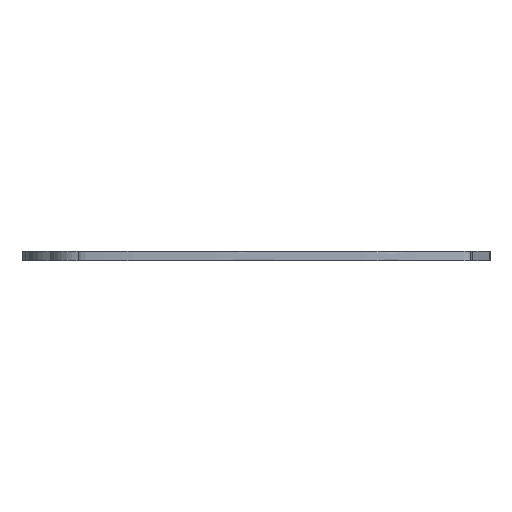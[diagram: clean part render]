
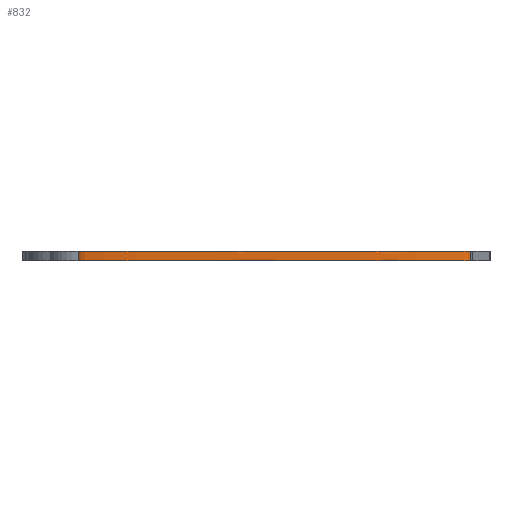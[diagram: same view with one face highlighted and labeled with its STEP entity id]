
A CAD part, front view. The second image highlights one B-rep face of the part: STEP entity #832.
In plain terms, the highlighted face is a extrusion surface.
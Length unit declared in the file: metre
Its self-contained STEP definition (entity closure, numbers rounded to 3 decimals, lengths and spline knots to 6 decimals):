
#832=ADVANCED_FACE('',(#2020),#2021,.T.);
#2020=FACE_OUTER_BOUND('',#4005,.T.);
#2021=SURFACE_OF_LINEAR_EXTRUSION('',#4006,#4007);
#4005=EDGE_LOOP('',(#7692,#7693,#7694,#7695));
#4006=B_SPLINE_CURVE_WITH_KNOTS('',3,(#7696,#7697,#7698,#7699,#7700,#7701,#7702,#7703,#7704,#7705,#7706,#7707,#7708,#7709,#7710,#7711,#7712,#7713,#7714,#7715,#7716,#7717,#7718,#7719,#7720,#7721,#7722,#7723),.UNSPECIFIED.,.F.,.F.,(4,1,1,1,1,1,1,1,1,1,1,1,1,1,1,1,1,1,1,1,1,1,1,1,1,4),(0.437383,0.441884,0.449247,0.455413,0.458303,0.459639,0.460261,0.461224,0.463433,0.470431,0.483846,0.51818,0.535807,0.567667,0.579588,0.584209,0.586571,0.587561,0.588231,0.589484,0.59112,0.595098,0.599826,0.604742,0.608726,0.610942),.UNSPECIFIED.);
#4007=VECTOR('',#7724,1.0);
#7692=ORIENTED_EDGE('',*,*,#13254,.F.);
#7693=ORIENTED_EDGE('',*,*,#13252,.F.);
#7694=ORIENTED_EDGE('',*,*,#13255,.T.);
#7695=ORIENTED_EDGE('',*,*,#13256,.T.);
#7696=CARTESIAN_POINT('',(0.376262,0.066229,0.0));
#7697=CARTESIAN_POINT('',(0.377786,0.066142,0.0));
#7698=CARTESIAN_POINT('',(0.381803,0.065912,0.0));
#7699=CARTESIAN_POINT('',(0.387901,0.065407,0.0));
#7700=CARTESIAN_POINT('',(0.393428,0.06484,0.0));
#7701=CARTESIAN_POINT('',(0.396906,0.06407,0.0));
#7702=CARTESIAN_POINT('',(0.398463,0.063709,0.0));
#7703=CARTESIAN_POINT('',(0.399324,0.062887,0.0));
#7704=CARTESIAN_POINT('',(0.398069,0.061755,0.0));
#7705=CARTESIAN_POINT('',(0.39497,0.060942,0.0));
#7706=CARTESIAN_POINT('',(0.387099,0.060009,0.0));
#7707=CARTESIAN_POINT('',(0.368843,0.058039,0.0));
#7708=CARTESIAN_POINT('',(0.346517,0.057745,0.0));
#7709=CARTESIAN_POINT('',(0.318128,0.05801,0.0));
#7710=CARTESIAN_POINT('',(0.297276,0.058265,0.0));
#7711=CARTESIAN_POINT('',(0.280944,0.060299,0.0));
#7712=CARTESIAN_POINT('',(0.274605,0.060955,0.0));
#7713=CARTESIAN_POINT('',(0.271917,0.061633,0.0));
#7714=CARTESIAN_POINT('',(0.270714,0.062088,0.0));
#7715=CARTESIAN_POINT('',(0.269753,0.062847,0.0));
#7716=CARTESIAN_POINT('',(0.271266,0.063805,0.0));
#7717=CARTESIAN_POINT('',(0.273277,0.064241,0.0));
#7718=CARTESIAN_POINT('',(0.276896,0.064897,0.0));
#7719=CARTESIAN_POINT('',(0.281409,0.065523,0.0));
#7720=CARTESIAN_POINT('',(0.28604,0.065828,0.0));
#7721=CARTESIAN_POINT('',(0.289776,0.066369,0.0));
#7722=CARTESIAN_POINT('',(0.291881,0.06637,0.0));
#7723=CARTESIAN_POINT('',(0.292633,0.06637,0.0));
#7724=DIRECTION('',(-0.0,-0.0,-1.0));
#13252=EDGE_CURVE('',#17393,#17391,#17395,.T.);
#13254=EDGE_CURVE('',#17391,#17397,#17398,.T.);
#13255=EDGE_CURVE('',#17393,#17399,#17400,.T.);
#13256=EDGE_CURVE('',#17399,#17397,#17401,.T.);
#17391=VERTEX_POINT('',#20854);
#17393=VERTEX_POINT('',#20867);
#17395=LINE('',#20880,#20881);
#17397=VERTEX_POINT('',#20883);
#17398=B_SPLINE_CURVE_WITH_KNOTS('',3,(#20884,#20885,#20886,#20887,#20888,#20889,#20890,#20891,#20892,#20893,#20894,#20895,#20896,#20897,#20898,#20899,#20900,#20901,#20902,#20903,#20904,#20905,#20906,#20907,#20908,#20909,#20910,#20911),.UNSPECIFIED.,.F.,.F.,(4,1,1,1,1,1,1,1,1,1,1,1,1,1,1,1,1,1,1,1,1,1,1,1,1,4),(0.437383,0.441884,0.449247,0.455413,0.458303,0.459639,0.460261,0.461224,0.463433,0.470431,0.483846,0.51818,0.535807,0.567667,0.579588,0.584209,0.586571,0.587561,0.588231,0.589484,0.59112,0.595098,0.599826,0.604742,0.608726,0.610942),.UNSPECIFIED.);
#17399=VERTEX_POINT('',#20912);
#17400=B_SPLINE_CURVE_WITH_KNOTS('',3,(#20913,#20914,#20915,#20916,#20917,#20918,#20919,#20920,#20921,#20922,#20923,#20924,#20925,#20926,#20927,#20928,#20929,#20930,#20931,#20932,#20933,#20934,#20935,#20936,#20937,#20938,#20939,#20940),.UNSPECIFIED.,.F.,.F.,(4,1,1,1,1,1,1,1,1,1,1,1,1,1,1,1,1,1,1,1,1,1,1,1,1,4),(0.437383,0.441884,0.449247,0.455413,0.458303,0.459639,0.460261,0.461224,0.463433,0.470431,0.483846,0.51818,0.535807,0.567667,0.579588,0.584209,0.586571,0.587561,0.588231,0.589484,0.59112,0.595098,0.599826,0.604742,0.608726,0.610942),.UNSPECIFIED.);
#17401=LINE('',#20941,#20942);
#20854=CARTESIAN_POINT('',(0.376262,0.066229,-0.003));
#20867=CARTESIAN_POINT('',(0.376262,0.066229,0.0));
#20880=CARTESIAN_POINT('',(0.376262,0.066229,0.0));
#20881=VECTOR('',#27144,1.0);
#20883=CARTESIAN_POINT('',(0.292633,0.06637,-0.003));
#20884=CARTESIAN_POINT('',(0.376262,0.066229,-0.003));
#20885=CARTESIAN_POINT('',(0.377786,0.066142,-0.003));
#20886=CARTESIAN_POINT('',(0.381803,0.065912,-0.003));
#20887=CARTESIAN_POINT('',(0.387901,0.065407,-0.003));
#20888=CARTESIAN_POINT('',(0.393428,0.06484,-0.003));
#20889=CARTESIAN_POINT('',(0.396906,0.06407,-0.003));
#20890=CARTESIAN_POINT('',(0.398463,0.063709,-0.003));
#20891=CARTESIAN_POINT('',(0.399324,0.062887,-0.003));
#20892=CARTESIAN_POINT('',(0.398069,0.061755,-0.003));
#20893=CARTESIAN_POINT('',(0.39497,0.060942,-0.003));
#20894=CARTESIAN_POINT('',(0.387099,0.060009,-0.003));
#20895=CARTESIAN_POINT('',(0.368843,0.058039,-0.003));
#20896=CARTESIAN_POINT('',(0.346517,0.057745,-0.003));
#20897=CARTESIAN_POINT('',(0.318128,0.05801,-0.003));
#20898=CARTESIAN_POINT('',(0.297276,0.058265,-0.003));
#20899=CARTESIAN_POINT('',(0.280944,0.060299,-0.003));
#20900=CARTESIAN_POINT('',(0.274605,0.060955,-0.003));
#20901=CARTESIAN_POINT('',(0.271917,0.061633,-0.003));
#20902=CARTESIAN_POINT('',(0.270714,0.062088,-0.003));
#20903=CARTESIAN_POINT('',(0.269753,0.062847,-0.003));
#20904=CARTESIAN_POINT('',(0.271266,0.063805,-0.003));
#20905=CARTESIAN_POINT('',(0.273277,0.064241,-0.003));
#20906=CARTESIAN_POINT('',(0.276896,0.064897,-0.003));
#20907=CARTESIAN_POINT('',(0.281409,0.065523,-0.003));
#20908=CARTESIAN_POINT('',(0.28604,0.065828,-0.003));
#20909=CARTESIAN_POINT('',(0.289776,0.066369,-0.003));
#20910=CARTESIAN_POINT('',(0.291881,0.06637,-0.003));
#20911=CARTESIAN_POINT('',(0.292633,0.06637,-0.003));
#20912=CARTESIAN_POINT('',(0.292633,0.06637,0.0));
#20913=CARTESIAN_POINT('',(0.376262,0.066229,0.0));
#20914=CARTESIAN_POINT('',(0.377786,0.066142,0.0));
#20915=CARTESIAN_POINT('',(0.381803,0.065912,0.0));
#20916=CARTESIAN_POINT('',(0.387901,0.065407,0.0));
#20917=CARTESIAN_POINT('',(0.393428,0.06484,0.0));
#20918=CARTESIAN_POINT('',(0.396906,0.06407,0.0));
#20919=CARTESIAN_POINT('',(0.398463,0.063709,0.0));
#20920=CARTESIAN_POINT('',(0.399324,0.062887,0.0));
#20921=CARTESIAN_POINT('',(0.398069,0.061755,0.0));
#20922=CARTESIAN_POINT('',(0.39497,0.060942,0.0));
#20923=CARTESIAN_POINT('',(0.387099,0.060009,0.0));
#20924=CARTESIAN_POINT('',(0.368843,0.058039,0.0));
#20925=CARTESIAN_POINT('',(0.346517,0.057745,0.0));
#20926=CARTESIAN_POINT('',(0.318128,0.05801,0.0));
#20927=CARTESIAN_POINT('',(0.297276,0.058265,0.0));
#20928=CARTESIAN_POINT('',(0.280944,0.060299,0.0));
#20929=CARTESIAN_POINT('',(0.274605,0.060955,0.0));
#20930=CARTESIAN_POINT('',(0.271917,0.061633,0.0));
#20931=CARTESIAN_POINT('',(0.270714,0.062088,0.0));
#20932=CARTESIAN_POINT('',(0.269753,0.062847,0.0));
#20933=CARTESIAN_POINT('',(0.271266,0.063805,0.0));
#20934=CARTESIAN_POINT('',(0.273277,0.064241,0.0));
#20935=CARTESIAN_POINT('',(0.276896,0.064897,0.0));
#20936=CARTESIAN_POINT('',(0.281409,0.065523,0.0));
#20937=CARTESIAN_POINT('',(0.28604,0.065828,0.0));
#20938=CARTESIAN_POINT('',(0.289776,0.066369,0.0));
#20939=CARTESIAN_POINT('',(0.291881,0.06637,0.0));
#20940=CARTESIAN_POINT('',(0.292633,0.06637,0.0));
#20941=CARTESIAN_POINT('',(0.292633,0.06637,0.0));
#20942=VECTOR('',#27145,1.0);
#27144=DIRECTION('',(-0.0,-0.0,-1.0));
#27145=DIRECTION('',(-0.0,-0.0,-1.0));
